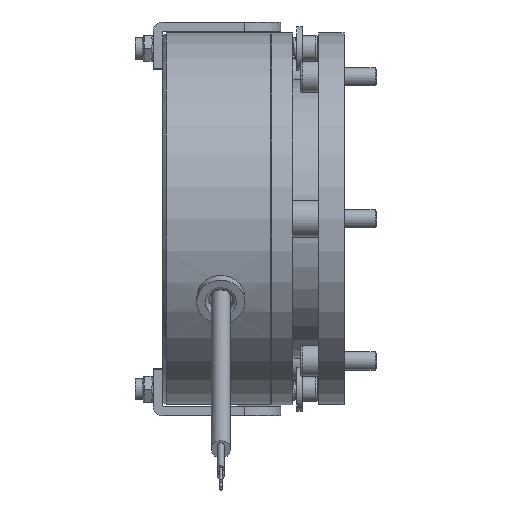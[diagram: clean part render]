
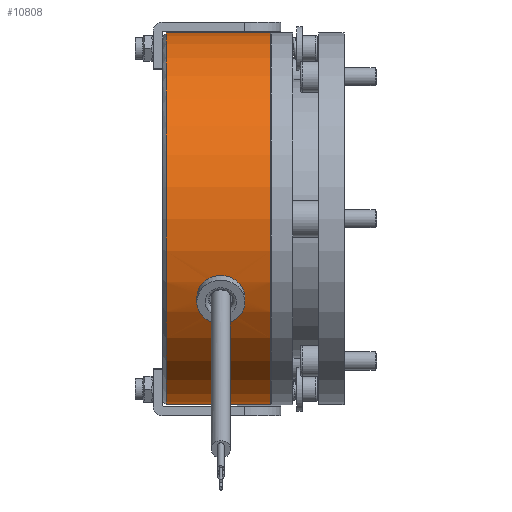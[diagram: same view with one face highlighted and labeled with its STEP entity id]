
A CAD part, front view. The second image highlights one B-rep face of the part: STEP entity #10808.
In plain terms, the highlighted cylindrical face has radius 51 mm (diameter 102 mm), a full revolution.
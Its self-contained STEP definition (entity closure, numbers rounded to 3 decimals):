
#372=B_SPLINE_CURVE_WITH_KNOTS('',3,(#20336,#20337,#20338,#20339,#20340,
#20341,#20342,#20343,#20344,#20345,#20346,#20347,#20348,#20349,#20350,#20351,
#20352,#20353,#20354),.UNSPECIFIED.,.F.,.F.,(4,2,2,2,3,2,2,2,4),(2.301,
2.492,2.684,2.876,3.067,3.259,
3.451,3.643,3.834),.UNSPECIFIED.);
#373=B_SPLINE_CURVE_WITH_KNOTS('',3,(#20357,#20358,#20359,#20360,#20361,
#20362,#20363,#20364,#20365,#20366,#20367,#20368,#20369,#20370,#20371,#20372,
#20373,#20374),.UNSPECIFIED.,.F.,.F.,(4,2,2,2,2,2,2,2,4),(0.767,
0.959,1.151,1.342,1.534,1.725,
1.916,2.108,2.301),.UNSPECIFIED.);
#658=CYLINDRICAL_SURFACE('',#11779,51.);
#759=FACE_BOUND('',#2350,.T.);
#927=CIRCLE('',#11297,51.);
#928=CIRCLE('',#11298,51.);
#1178=CIRCLE('',#11766,51.);
#1179=CIRCLE('',#11767,51.);
#1738=FACE_OUTER_BOUND('',#2349,.T.);
#2349=EDGE_LOOP('',(#8473,#8474,#8475,#8476,#8477,#8478));
#2350=EDGE_LOOP('',(#8479,#8480,#8481,#8482,#8483,#8484));
#3068=LINE('',#20331,#3639);
#3069=LINE('',#20334,#3640);
#3070=LINE('',#20356,#3641);
#3639=VECTOR('',#14000,51.);
#3640=VECTOR('',#14001,10.);
#3641=VECTOR('',#14002,10.);
#4123=VERTEX_POINT('',#17104);
#4124=VERTEX_POINT('',#17105);
#4552=VERTEX_POINT('',#20303);
#4553=VERTEX_POINT('',#20304);
#4563=VERTEX_POINT('',#20332);
#4564=VERTEX_POINT('',#20333);
#4565=VERTEX_POINT('',#20335);
#4566=VERTEX_POINT('',#20355);
#5313=EDGE_CURVE('',#4123,#4124,#927,.T.);
#5314=EDGE_CURVE('',#4124,#4123,#928,.T.);
#5940=EDGE_CURVE('',#4552,#4553,#1178,.T.);
#5941=EDGE_CURVE('',#4553,#4552,#1179,.T.);
#5954=EDGE_CURVE('',#4124,#4553,#3068,.T.);
#5955=EDGE_CURVE('',#4563,#4564,#3069,.T.);
#5956=EDGE_CURVE('',#4563,#4565,#372,.T.);
#5957=EDGE_CURVE('',#4565,#4566,#3070,.T.);
#5958=EDGE_CURVE('',#4565,#4563,#373,.T.);
#8473=ORIENTED_EDGE('',*,*,#5313,.F.);
#8474=ORIENTED_EDGE('',*,*,#5314,.F.);
#8475=ORIENTED_EDGE('',*,*,#5954,.T.);
#8476=ORIENTED_EDGE('',*,*,#5940,.F.);
#8477=ORIENTED_EDGE('',*,*,#5941,.F.);
#8478=ORIENTED_EDGE('',*,*,#5954,.F.);
#8479=ORIENTED_EDGE('',*,*,#5955,.T.);
#8480=ORIENTED_EDGE('',*,*,#5955,.F.);
#8481=ORIENTED_EDGE('',*,*,#5956,.T.);
#8482=ORIENTED_EDGE('',*,*,#5957,.T.);
#8483=ORIENTED_EDGE('',*,*,#5957,.F.);
#8484=ORIENTED_EDGE('',*,*,#5958,.T.);
#10808=ADVANCED_FACE('',(#1738,#759),#658,.T.);
#11297=AXIS2_PLACEMENT_3D('',#17106,#12832,#12833);
#11298=AXIS2_PLACEMENT_3D('',#17107,#12834,#12835);
#11766=AXIS2_PLACEMENT_3D('',#20305,#13969,#13970);
#11767=AXIS2_PLACEMENT_3D('',#20306,#13971,#13972);
#11779=AXIS2_PLACEMENT_3D('',#20330,#13998,#13999);
#12832=DIRECTION('center_axis',(1.,0.,0.));
#12833=DIRECTION('ref_axis',(0.,1.,0.));
#12834=DIRECTION('center_axis',(1.,0.,0.));
#12835=DIRECTION('ref_axis',(0.,1.,0.));
#13969=DIRECTION('center_axis',(-1.,0.,0.));
#13970=DIRECTION('ref_axis',(0.,-1.,0.));
#13971=DIRECTION('center_axis',(-1.,0.,0.));
#13972=DIRECTION('ref_axis',(0.,-1.,0.));
#13998=DIRECTION('center_axis',(1.,0.,0.));
#13999=DIRECTION('ref_axis',(0.,1.,0.));
#14000=DIRECTION('',(-1.,0.,0.));
#14001=DIRECTION('',(-1.,0.,0.));
#14002=DIRECTION('',(1.,0.,0.));
#17104=CARTESIAN_POINT('',(0.,0.,
51.));
#17105=CARTESIAN_POINT('',(0.,-51.,0.));
#17106=CARTESIAN_POINT('Origin',(0.,0.,
0.));
#17107=CARTESIAN_POINT('Origin',(0.,0.,
0.));
#20303=CARTESIAN_POINT('',(-28.6,51.,0.));
#20304=CARTESIAN_POINT('',(-28.6,-51.,0.));
#20305=CARTESIAN_POINT('Origin',(-28.6,0.,0.));
#20306=CARTESIAN_POINT('Origin',(-28.6,0.,0.));
#20330=CARTESIAN_POINT('Origin',(-14.8,0.,0.));
#20331=CARTESIAN_POINT('',(-14.8,-51.,0.));
#20332=CARTESIAN_POINT('',(-18.7,-46.222,-21.554));
#20333=CARTESIAN_POINT('',(-20.2,-46.222,-21.554));
#20334=CARTESIAN_POINT('',(0.,-46.222,-21.554));
#20335=CARTESIAN_POINT('',(-8.5,-46.222,-21.554));
#20336=CARTESIAN_POINT('Ctrl Pts',(-18.7,-46.222,
-21.554));
#20337=CARTESIAN_POINT('Ctrl Pts',(-18.7,-46.492,
-20.974));
#20338=CARTESIAN_POINT('Ctrl Pts',(-18.571,-46.768,
-20.351));
#20339=CARTESIAN_POINT('Ctrl Pts',(-18.048,-47.254,
-19.196));
#20340=CARTESIAN_POINT('Ctrl Pts',(-17.654,-47.464,
-18.665));
#20341=CARTESIAN_POINT('Ctrl Pts',(-16.747,-47.786,
-17.824));
#20342=CARTESIAN_POINT('Ctrl Pts',(-16.174,-47.92,-17.457));
#20343=CARTESIAN_POINT('Ctrl Pts',(-14.92,-48.094,-16.97));
#20344=CARTESIAN_POINT('Ctrl Pts',(-14.239,-48.136,
-16.85));
#20345=CARTESIAN_POINT('Ctrl Pts',(-13.6,-48.136,
-16.85));
#20346=CARTESIAN_POINT('Ctrl Pts',(-12.961,-48.136,
-16.85));
#20347=CARTESIAN_POINT('Ctrl Pts',(-12.28,-48.094,
-16.97));
#20348=CARTESIAN_POINT('Ctrl Pts',(-11.026,-47.92,
-17.457));
#20349=CARTESIAN_POINT('Ctrl Pts',(-10.453,-47.786,-17.824));
#20350=CARTESIAN_POINT('Ctrl Pts',(-9.546,-47.464,
-18.665));
#20351=CARTESIAN_POINT('Ctrl Pts',(-9.152,-47.254,
-19.196));
#20352=CARTESIAN_POINT('Ctrl Pts',(-8.629,-46.768,
-20.351));
#20353=CARTESIAN_POINT('Ctrl Pts',(-8.5,-46.492,
-20.974));
#20354=CARTESIAN_POINT('Ctrl Pts',(-8.5,-46.222,
-21.554));
#20355=CARTESIAN_POINT('',(-7.,-46.222,-21.554));
#20356=CARTESIAN_POINT('',(-14.8,-46.222,-21.554));
#20357=CARTESIAN_POINT('Ctrl Pts',(-8.5,-46.222,
-21.554));
#20358=CARTESIAN_POINT('Ctrl Pts',(-8.5,-45.951,
-22.133));
#20359=CARTESIAN_POINT('Ctrl Pts',(-8.629,-45.651,
-22.745));
#20360=CARTESIAN_POINT('Ctrl Pts',(-9.152,-45.079,
-23.859));
#20361=CARTESIAN_POINT('Ctrl Pts',(-9.546,-44.807,
-24.362));
#20362=CARTESIAN_POINT('Ctrl Pts',(-10.453,-44.37,-25.149));
#20363=CARTESIAN_POINT('Ctrl Pts',(-11.026,-44.175,
-25.487));
#20364=CARTESIAN_POINT('Ctrl Pts',(-12.28,-43.914,
-25.934));
#20365=CARTESIAN_POINT('Ctrl Pts',(-12.961,-43.849,
-26.043));
#20366=CARTESIAN_POINT('Ctrl Pts',(-14.238,-43.849,
-26.043));
#20367=CARTESIAN_POINT('Ctrl Pts',(-14.918,-43.914,
-25.935));
#20368=CARTESIAN_POINT('Ctrl Pts',(-16.171,-44.174,-25.489));
#20369=CARTESIAN_POINT('Ctrl Pts',(-16.743,-44.369,-25.152));
#20370=CARTESIAN_POINT('Ctrl Pts',(-17.651,-44.806,
-24.365));
#20371=CARTESIAN_POINT('Ctrl Pts',(-18.046,-45.078,
-23.862));
#20372=CARTESIAN_POINT('Ctrl Pts',(-18.571,-45.651,
-22.747));
#20373=CARTESIAN_POINT('Ctrl Pts',(-18.7,-45.951,
-22.134));
#20374=CARTESIAN_POINT('Ctrl Pts',(-18.7,-46.222,
-21.554));
